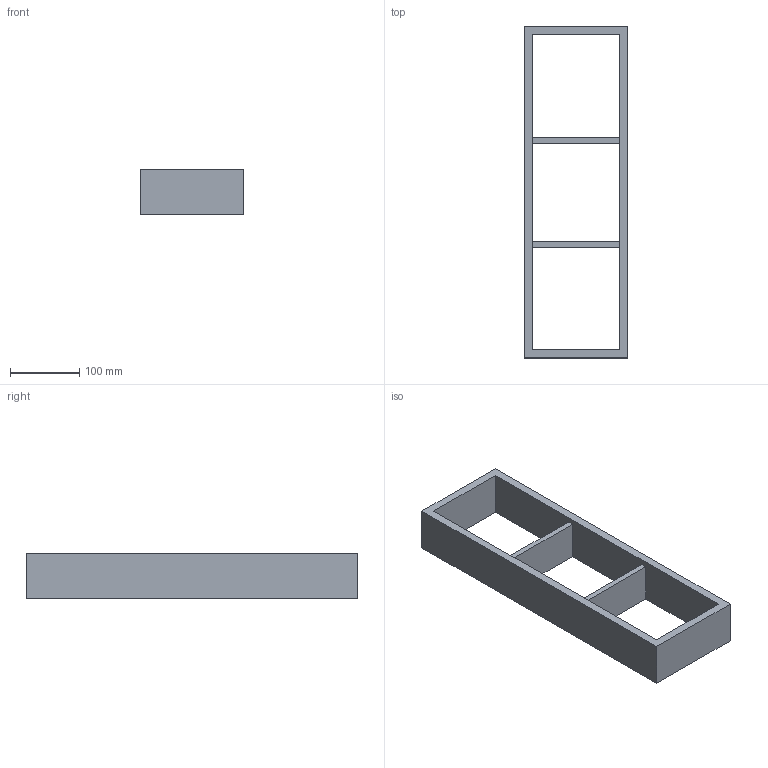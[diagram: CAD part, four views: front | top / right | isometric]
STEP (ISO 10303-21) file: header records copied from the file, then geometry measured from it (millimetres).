
FILE_DESCRIPTION (( 'STEP AP214' ), '1' );
FILE_NAME ('Vario Multi NL500_ZE150_16 mm_Buche.step', '2010-10-07T06:24:21', ( 'grass' ), ( '' ), 'SwSTEP 2.0', 'SolidWorks 2010', '' );
FILE_SCHEMA (( 'AUTOMOTIVE_DESIGN' ));
Length unit declared in the file: millimetre
Products named in the file (1): Vario Multi NL500_ZE150_16 mm_Buche
Bounding box: 150 x 479 x 65 mm (x, y, z)
Volume: 1058712 mm3; surface area: 217276 mm2
Topology: 1 solids, 1 shells, 16 faces, 48 edges, 32 vertices
Faces by surface type: plane 16
Entity records: 578 total; most frequent: CARTESIAN_POINT 97, ORIENTED_EDGE 96, DIRECTION 82, EDGE_CURVE 48, LINE 48, VECTOR 48, VERTEX_POINT 32, EDGE_LOOP 20
